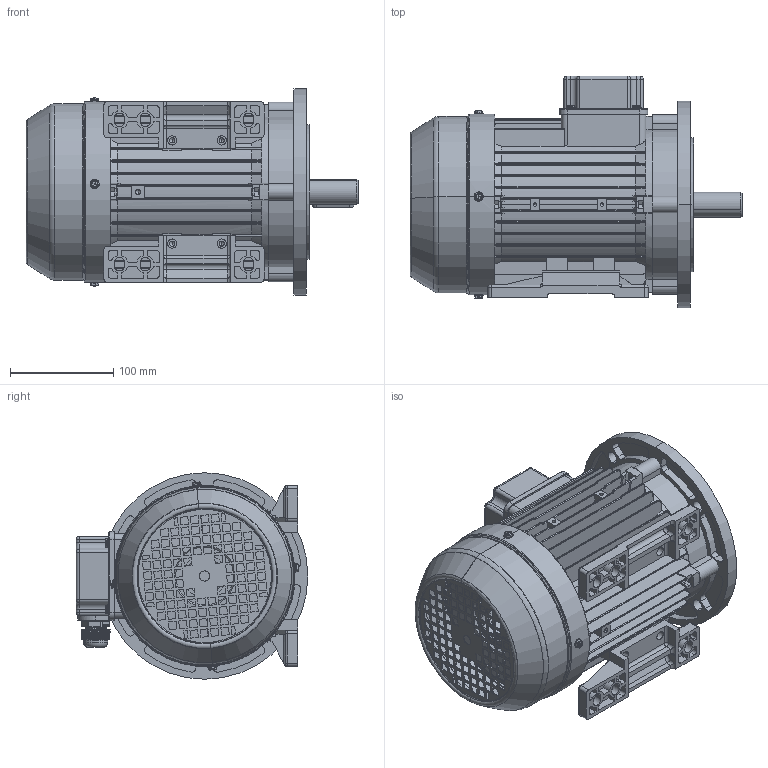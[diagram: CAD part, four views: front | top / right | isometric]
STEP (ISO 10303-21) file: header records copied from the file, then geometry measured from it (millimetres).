
FILE_DESCRIPTION (( 'STEP AP203' ), '1' );
FILE_NAME ('MSL90SL assembly B35.STEP', '2017-11-26T09:46:41', ( 'user' ), ( 'china' ), 'SwSTEP 2.0', 'SolidWorks 2016', '' );
FILE_SCHEMA (( 'CONFIG_CONTROL_DESIGN' ));
Length unit declared in the file: millimetre
Products named in the file (16): MSL90SL assembly B35; MSL80-90堤盄碟_MSL80-90; M90M菁褐_Left; MSL90-儂褲; GB-T 70.1-2000 M5_20; GB-T 5780-2000 M5_020; M90傷裔B3_Post; M90傷裔B5; M90-Shaft drive end; GB-T 29.2-1988 M4鞠褒坋趼湍菜_08; M20 cable gland; M90M菁褐_Right; M90瑞欶_082; MS90 綴裔瑞欶郪磁; GB-T 29.2-1988 M4鞠褒坋趼湍菜_05; MSL80-90堤盄碟蚾饜
Assembly tree (27 placements, depth 3):
  MSL90SL assembly B35
    MSL90-儂褲
    MS90 綴裔瑞欶郪磁
      M90傷裔B3_Post
      M90瑞欶_082
      GB-T 29.2-1988 M4鞠褒坋趼湍菜_08  x4
    MSL80-90堤盄碟蚾饜
      MSL80-90堤盄碟_MSL80-90
      GB-T 29.2-1988 M4鞠褒坋趼湍菜_05  x4
      M20 cable gland
    M90-Shaft drive end
    GB-T 70.1-2000 M5_20  x4
    GB-T 5780-2000 M5_020  x4
    M90M菁褐_Left
    M90M菁褐_Right
    M90傷裔B5
Bounding box: 321.5 x 224.5 x 200 mm (x, y, z)
Volume: 1113726.9 mm3; surface area: 720123.1 mm2
Topology: 25 solids, 25 shells, 3561 faces, 9191 edges, 5738 vertices
Faces by surface type: plane 1790, cylinder 1131, cone 235, bspline 212, torus 181, sphere 12
Entity records: 120795 total; most frequent: CARTESIAN_POINT 42319, ORIENTED_EDGE 16538, DIRECTION 15160, EDGE_CURVE 8269, VERTEX_POINT 5261, AXIS2_PLACEMENT_3D 5167, LINE 4826, VECTOR 4826
